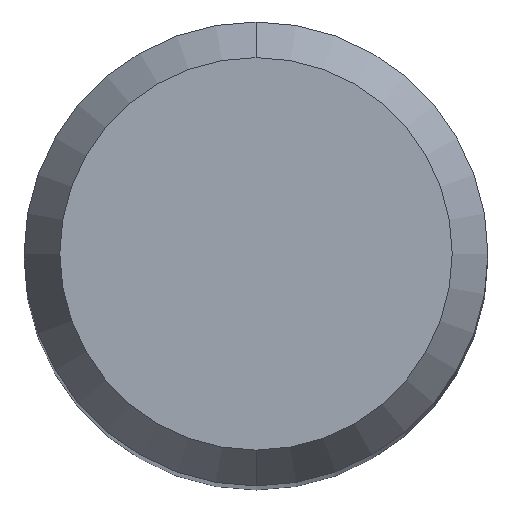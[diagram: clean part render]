
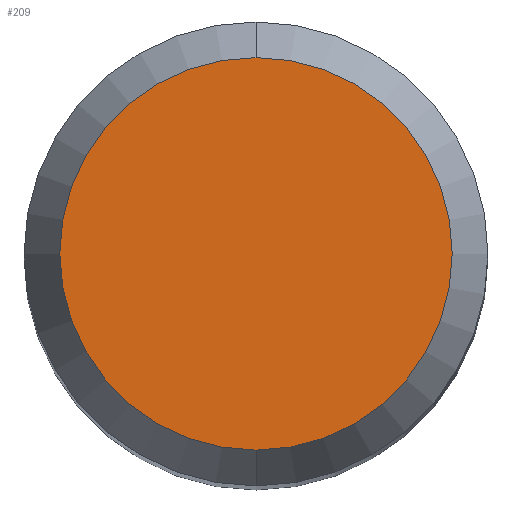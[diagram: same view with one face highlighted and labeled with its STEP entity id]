
A CAD part, top view. The second image highlights one B-rep face of the part: STEP entity #209.
In plain terms, the highlighted planar face has unit normal (0, 0, 1).
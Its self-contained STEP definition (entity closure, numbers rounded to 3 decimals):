
#183=EDGE_CURVE('',#277,#349,#437,.T.);
#209=ADVANCED_FACE('',(#464),#465,.T.);
#277=VERTEX_POINT('',#538);
#349=VERTEX_POINT('',#618);
#377=EDGE_CURVE('',#349,#277,#651,.T.);
#437=CIRCLE('',#770,2.538);
#464=FACE_OUTER_BOUND('',#816,.T.);
#465=PLANE('',#817);
#538=CARTESIAN_POINT('',(0.0,2.538,0.0));
#618=CARTESIAN_POINT('',(0.,-2.538,0.0));
#651=CIRCLE('',#1208,2.538);
#770=AXIS2_PLACEMENT_3D('',#1258,#1259,#1260);
#816=EDGE_LOOP('',(#1279,#1280));
#817=AXIS2_PLACEMENT_3D('',#1281,#1282,#1283);
#1208=AXIS2_PLACEMENT_3D('',#1485,#1486,#1487);
#1258=CARTESIAN_POINT('',(0.0,0.0,0.0));
#1259=DIRECTION('',(0.0,0.0,-1.0));
#1260=DIRECTION('',(0.0,1.0,0.0));
#1279=ORIENTED_EDGE('',*,*,#183,.F.);
#1280=ORIENTED_EDGE('',*,*,#377,.F.);
#1281=CARTESIAN_POINT('',(0.0,1.269,0.0));
#1282=DIRECTION('',(-0.0,0.0,1.0));
#1283=DIRECTION('',(0.0,-1.0,0.0));
#1485=CARTESIAN_POINT('',(0.0,0.0,0.0));
#1486=DIRECTION('',(0.0,0.0,-1.0));
#1487=DIRECTION('',(0.0,1.0,0.0));
